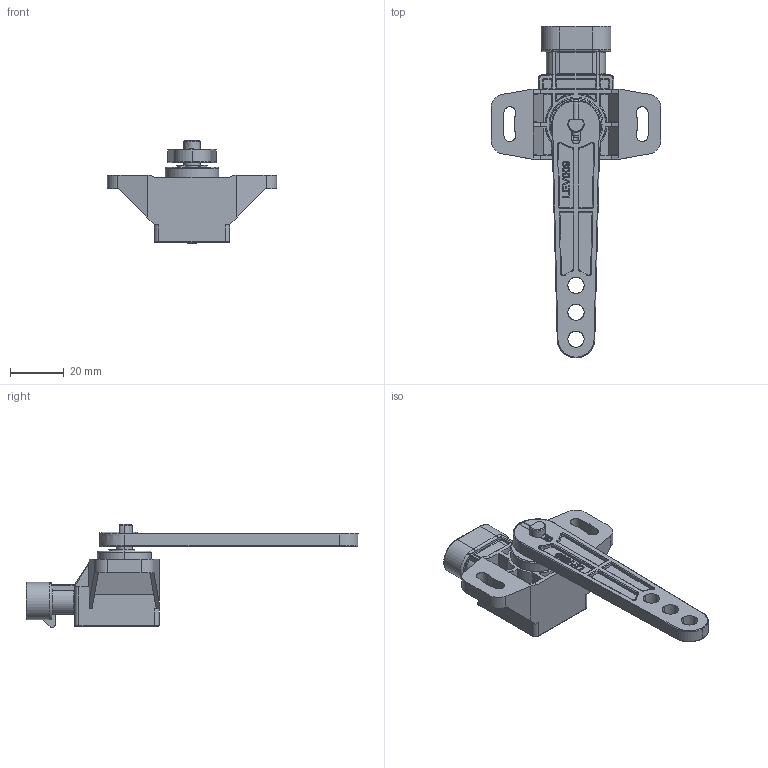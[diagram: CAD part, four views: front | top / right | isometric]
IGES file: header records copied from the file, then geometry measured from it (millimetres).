
Start section: SolidWorks IGES file using analytic representation for surfaces
Global section: file name: \\srv4gefran\dir-cat\Disegni Catalogo\Mobile\GR3P\GR3P 50\3D\Solidworks 2024\GR3PA S5E1LS xxx xxxx D0.IGS; native system: SolidWorks 2024; preprocessor: SolidWorks 2024; author: Loda-w1; date: 241219.161711; units: millimetre
Bounding box: 63 x 123.5 x 38.47 mm (x, y, z)
Surface area: 17892.5 mm2 (no closed solid volume)
Topology: 0 solids, 0 shells, 784 faces, 7337 edges, 7297 vertices
Faces by surface type: bspline 443, revolution 341
